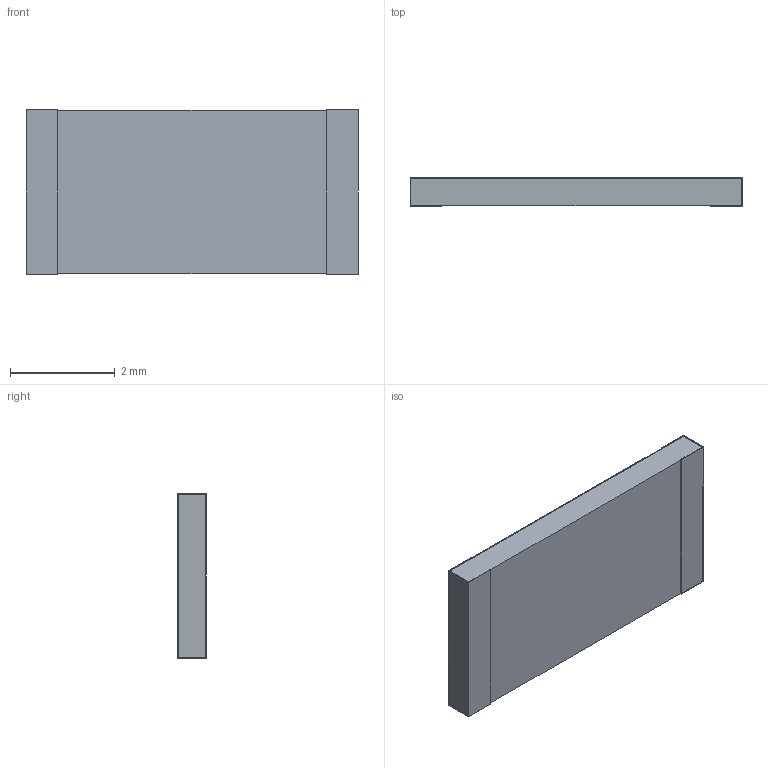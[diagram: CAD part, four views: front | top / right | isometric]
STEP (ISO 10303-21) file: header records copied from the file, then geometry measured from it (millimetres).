
FILE_DESCRIPTION(/* description */ (''),/* implementation_level */ '2;1');
FILE_NAME(/* name */ 'C:\Users\mulla\Documents\SEI Models\Inventor Files\RGC\RGC2512_stp.stp',/* time_stamp */ '2019-06-20T19:55:05-04:00',/* author */ ('mulla'),/* organization */ (''),/* preprocessor_version */ 'ST-DEVELOPER v16.1',/* originating_system */ 'Autodesk Inventor 2016',/* authorisation */ '');
FILE_SCHEMA (('AUTOMOTIVE_DESIGN { 1 0 10303 214 3 1 1 }'));
Length unit declared in the file: millimetre
Products named in the file (1): RGC2512
Bounding box: 6.35 x 0.55 x 3.15 mm (x, y, z)
Volume: 10.7 mm3; surface area: 103.7 mm2
Topology: 4 solids, 4 shells, 32 faces, 72 edges, 48 vertices
Faces by surface type: plane 32
Entity records: 950 total; most frequent: CARTESIAN_POINT 153, ORIENTED_EDGE 144, DIRECTION 138, LINE 72, VECTOR 72, EDGE_CURVE 72, VERTEX_POINT 48, STYLED_ITEM 36
